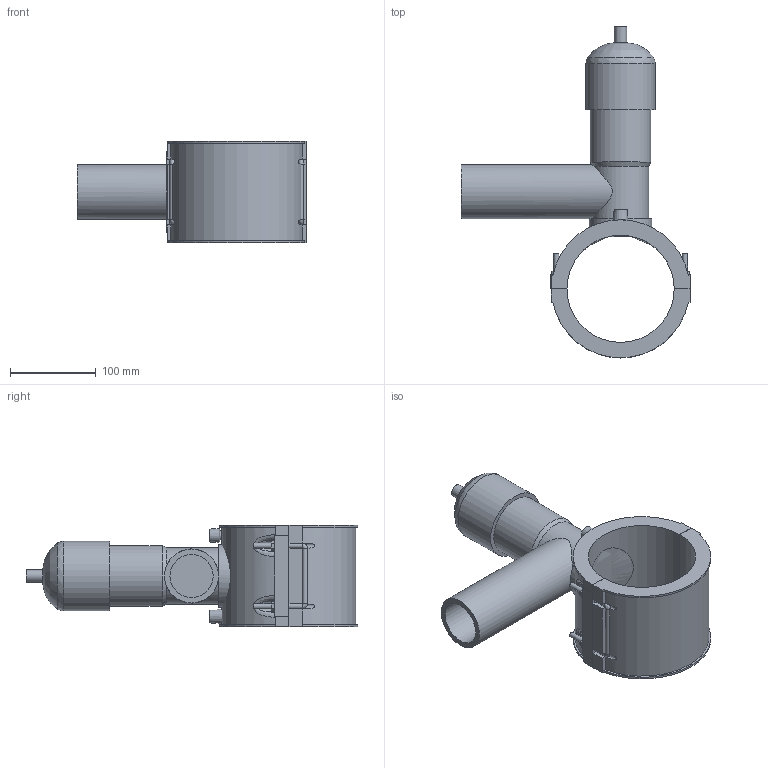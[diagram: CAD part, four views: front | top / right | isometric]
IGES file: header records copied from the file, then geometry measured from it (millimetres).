
Global section: file name: 495404125063.ipt; native system: Autodesk Inventor 2015; preprocessor: unknown; author: KIM; date: 20171106.094253; units: millimetre
Bounding box: 268 x 386.97 x 118 mm (x, y, z)
Volume: 1896660.5 mm3; surface area: 263659 mm2
Topology: 3 solids, 3 shells, 157 faces, 399 edges, 261 vertices
Faces by surface type: plane 99, cylinder 27, revolution 20, cone 7, bspline 4
Full cylindrical faces by diameter (mm): 4 x2, 6 x8, 14.64 x1, 63 x1, 70.76 x1, 73.2 x1, 81.333 x1
